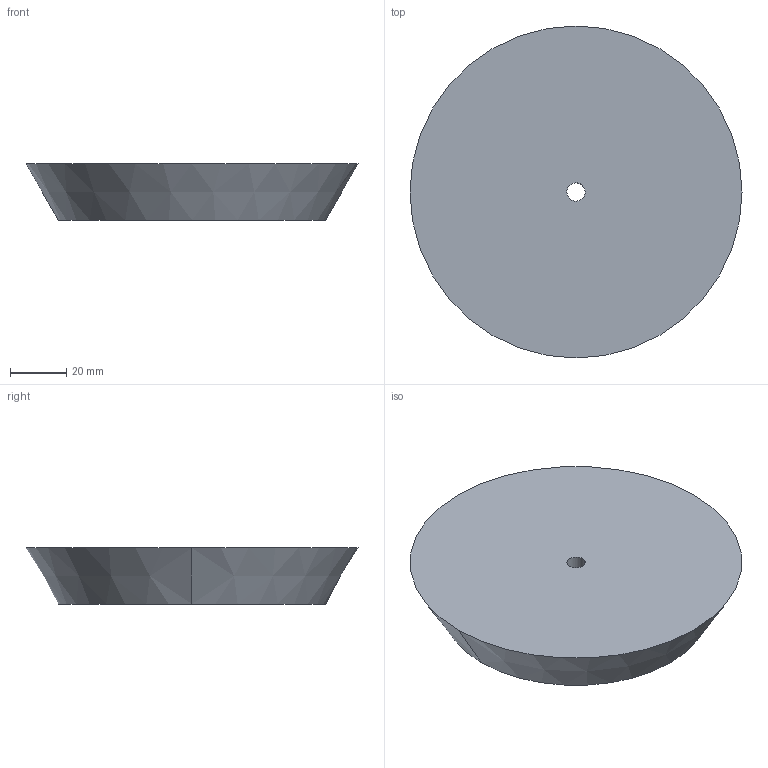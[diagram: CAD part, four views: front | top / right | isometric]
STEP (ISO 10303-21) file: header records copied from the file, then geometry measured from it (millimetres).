
FILE_DESCRIPTION(('CATIA V5 STEP Exchange'),'2;1');
FILE_NAME('C:\Users\andres.garcia\OneDrive - IQS\ASIGNATURAS\DAO\Controles\2223\c0\c1-CALVO_Mireia-tapon.stp','2023-02-03T08:22:03+00:00',('none'),('none'),'CATIA Version 5-6 Release 2013 SP6','CATIA V5 STEP AP203','none');
FILE_SCHEMA(('CONFIG_CONTROL_DESIGN'));
Length unit declared in the file: millimetre
Products named in the file (1): c1-CALVO_Mireia-tapon
Bounding box: 118 x 118 x 20 mm (x, y, z)
Volume: 178040.9 mm3; surface area: 26075.5 mm2
Topology: 1 solids, 1 shells, 6 faces, 12 edges, 8 vertices
Faces by surface type: cylinder 2, plane 2, cone 2
Entity records: 196 total; most frequent: CARTESIAN_POINT 26, ORIENTED_EDGE 24, DIRECTION 22, AXIS2_PLACEMENT_3D 14, EDGE_CURVE 12, CIRCLE 8, EDGE_LOOP 8, VERTEX_POINT 8
